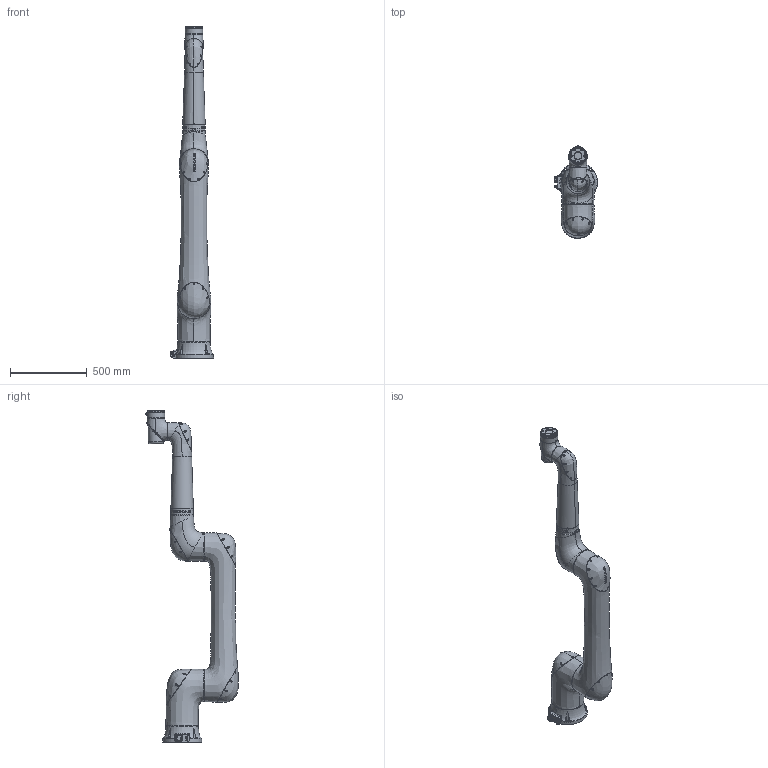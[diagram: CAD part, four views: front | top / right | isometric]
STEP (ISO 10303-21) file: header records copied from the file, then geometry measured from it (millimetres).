
FILE_DESCRIPTION(/* description */ (''),/* implementation_level */ '2;1');
FILE_NAME(/* name */ '【】XMC20-R1650-C 简化模型（20231219）.stp',/* time_stamp */ '2023-12-19T17:33:10+08:00',/* author */ (''),/* organization */ (''),/* preprocessor_version */ 'ST-DEVELOPER v16',/* originating_system */ 'SIEMENS PLM Software NX 10.0',/* authorisation */ '');
FILE_SCHEMA (('AUTOMOTIVE_DESIGN { 1 0 10303 214 3 1 1 1 }'));
Products named in the file (8): XMC20-C-dabi-A; XMC20-C-yao-A; XMC20-C-xiaobihou-A; XMC20-C-xiaobiqian-A; XMC20-C-shuchu-A; XMC20-C-shouwan-A; XMC20-C-base-A; 【】XMC20-C-R1650 简化模型（2
0231128）
Assembly tree (7 placements, depth 2):
  【】XMC20-C-R1650 简化模型（2
0231128）
    XMC20-C-base-A
    XMC20-C-shouwan-A
    XMC20-C-shuchu-A
    XMC20-C-xiaobiqian-A
    XMC20-C-xiaobihou-A
    XMC20-C-yao-A
    XMC20-C-dabi-A
Bounding box: 279.5 x 604.42 x 2157.5 mm (x, y, z)
Volume: 64979731.8 mm3; surface area: 2178723.7 mm2
Topology: 11 solids, 57 shells, 4270 faces, 10196 edges, 6192 vertices
Faces by surface type: plane 2014, cone 1093, cylinder 589, bspline 341, torus 225, revolution 6, extrusion 2
Full cylindrical faces by diameter (mm): 0.8 x8, 2.5 x4, 2.874 x8, 3.3 x13, 3.4 x8, 3.8 x8, 4.2 x1, 5 x12, 5.5 x56, 6 x2, 6.7 x2, 6.8 x6, 7 x1, 8 x2, 8.3 x1, 8.5 x12, 9.321 x1, 10 x12, 12.5 x1, 13.5 x4, 13.8 x1, 14 x1, 50 x1, 90 x4, 114 x2, 120 x2, 140 x2, 145 x1, 160 x4
Entity records: 229415 total; most frequent: CARTESIAN_POINT 138108, ORIENTED_EDGE 18670, DIRECTION 17945, EDGE_CURVE 9335, AXIS2_PLACEMENT_3D 7079, VERTEX_POINT 6015, EDGE_LOOP 5076, ADVANCED_FACE 4270
